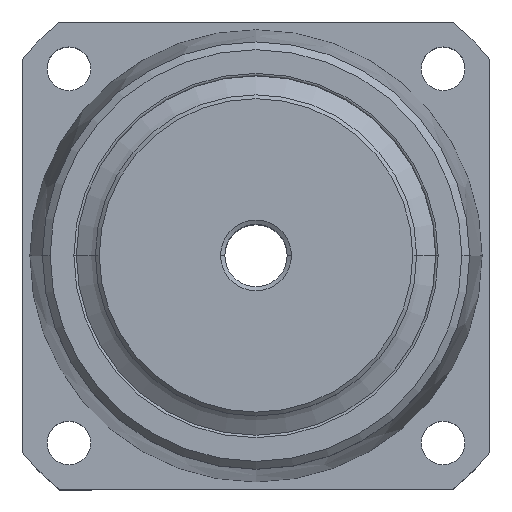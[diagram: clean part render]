
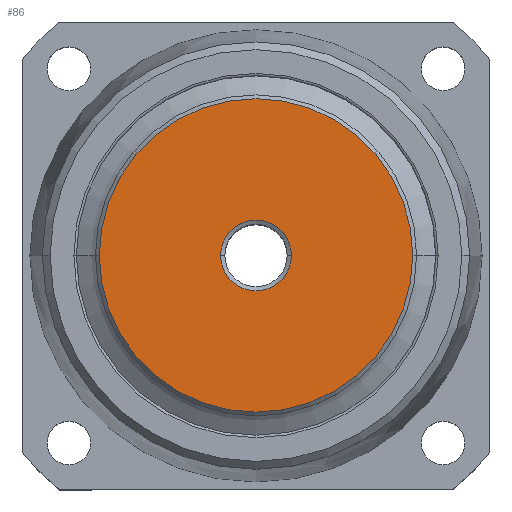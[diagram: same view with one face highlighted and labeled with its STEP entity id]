
A CAD part, top view. The second image highlights one B-rep face of the part: STEP entity #86.
In plain terms, the highlighted planar face has unit normal (0, 0, 1).
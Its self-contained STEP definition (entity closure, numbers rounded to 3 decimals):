
#86=ADVANCED_FACE('',(#199,#200),#201,.T.);
#199=FACE_BOUND('',#377,.T.);
#200=FACE_OUTER_BOUND('',#378,.T.);
#201=PLANE('',#379);
#377=EDGE_LOOP('',(#772,#773));
#378=EDGE_LOOP('',(#774,#775));
#379=AXIS2_PLACEMENT_3D('',#776,#777,#778);
#772=ORIENTED_EDGE('',*,*,#1162,.F.);
#773=ORIENTED_EDGE('',*,*,#1116,.F.);
#774=ORIENTED_EDGE('',*,*,#1120,.T.);
#775=ORIENTED_EDGE('',*,*,#1161,.T.);
#776=CARTESIAN_POINT('',(30.798,0.,125.0));
#777=DIRECTION('',(0.0,0.0,1.0));
#778=DIRECTION('',(1.0,0.0,0.0));
#1116=EDGE_CURVE('',#1496,#1494,#1498,.T.);
#1120=EDGE_CURVE('',#1500,#1504,#1506,.T.);
#1161=EDGE_CURVE('',#1504,#1500,#1567,.T.);
#1162=EDGE_CURVE('',#1494,#1496,#1568,.T.);
#1494=VERTEX_POINT('',#1814);
#1496=VERTEX_POINT('',#1817);
#1498=CIRCLE('',#1820,11.346);
#1500=VERTEX_POINT('',#1822);
#1504=VERTEX_POINT('',#1827);
#1506=CIRCLE('',#1830,50.25);
#1567=CIRCLE('',#1899,50.25);
#1568=CIRCLE('',#1900,11.346);
#1814=CARTESIAN_POINT('',(11.346,0.,125.0));
#1817=CARTESIAN_POINT('',(-11.346,0.,125.0));
#1820=AXIS2_PLACEMENT_3D('',#2176,#2177,#2178);
#1822=CARTESIAN_POINT('',(50.25,0.,125.0));
#1827=CARTESIAN_POINT('',(-50.25,0.,125.0));
#1830=AXIS2_PLACEMENT_3D('',#2184,#2185,#2186);
#1899=AXIS2_PLACEMENT_3D('',#2291,#2292,#2293);
#1900=AXIS2_PLACEMENT_3D('',#2294,#2295,#2296);
#2176=CARTESIAN_POINT('',(0.,0.,125.0));
#2177=DIRECTION('',(0.0,0.0,1.0));
#2178=DIRECTION('',(1.0,0.0,0.0));
#2184=CARTESIAN_POINT('',(0.,0.,125.0));
#2185=DIRECTION('',(0.0,0.0,1.0));
#2186=DIRECTION('',(1.0,0.0,0.0));
#2291=CARTESIAN_POINT('',(0.,0.,125.0));
#2292=DIRECTION('',(0.0,0.0,1.0));
#2293=DIRECTION('',(1.0,0.0,0.0));
#2294=CARTESIAN_POINT('',(0.,0.,125.0));
#2295=DIRECTION('',(0.0,0.0,1.0));
#2296=DIRECTION('',(1.0,0.0,0.0));
